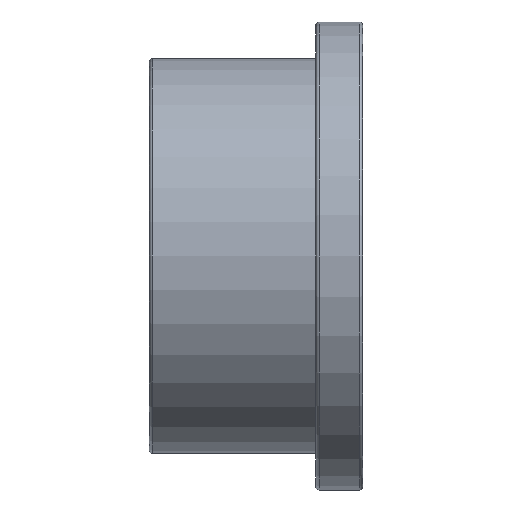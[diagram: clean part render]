
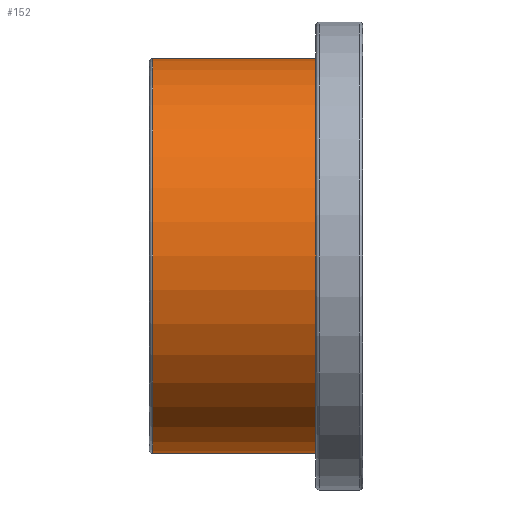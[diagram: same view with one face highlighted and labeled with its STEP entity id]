
A CAD part, front view. The second image highlights one B-rep face of the part: STEP entity #152.
In plain terms, the highlighted cylindrical face has radius 38 mm (diameter 76 mm), a full revolution.
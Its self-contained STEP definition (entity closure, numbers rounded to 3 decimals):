
#21=CYLINDRICAL_SURFACE('',#176,38.);
#30=FACE_BOUND('',#64,.T.);
#43=FACE_OUTER_BOUND('',#63,.T.);
#63=EDGE_LOOP('',(#128));
#64=EDGE_LOOP('',(#129));
#78=CIRCLE('',#166,38.);
#83=CIRCLE('',#175,38.);
#91=VERTEX_POINT('',#250);
#96=VERTEX_POINT('',#264);
#104=EDGE_CURVE('',#91,#91,#78,.T.);
#109=EDGE_CURVE('',#96,#96,#83,.T.);
#128=ORIENTED_EDGE('',*,*,#104,.T.);
#129=ORIENTED_EDGE('',*,*,#109,.F.);
#152=ADVANCED_FACE('',(#43,#30),#21,.T.);
#166=AXIS2_PLACEMENT_3D('',#251,#200,#201);
#175=AXIS2_PLACEMENT_3D('',#265,#218,#219);
#176=AXIS2_PLACEMENT_3D('',#266,#220,#221);
#200=DIRECTION('center_axis',(-1.,0.,0.));
#201=DIRECTION('ref_axis',(0.,0.,1.));
#218=DIRECTION('center_axis',(-1.,0.,0.));
#219=DIRECTION('ref_axis',(0.,1.,0.));
#220=DIRECTION('center_axis',(-1.,0.,0.));
#221=DIRECTION('ref_axis',(0.,-1.,0.));
#250=CARTESIAN_POINT('',(32.,-38.,0.));
#251=CARTESIAN_POINT('Origin',(32.,0.,0.));
#264=CARTESIAN_POINT('',(0.63,-38.,0.));
#265=CARTESIAN_POINT('Origin',(0.63,0.,0.));
#266=CARTESIAN_POINT('Origin',(16.,0.,0.));
